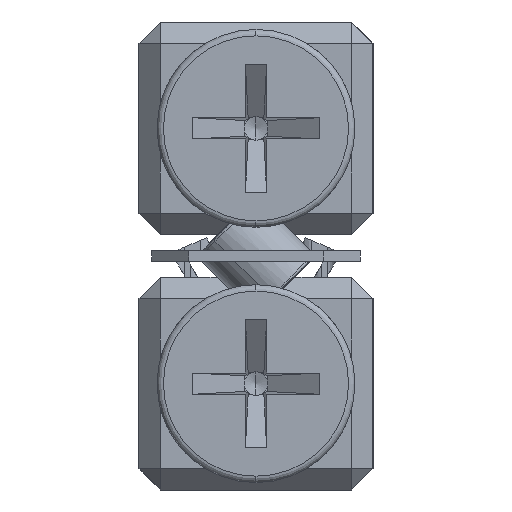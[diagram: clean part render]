
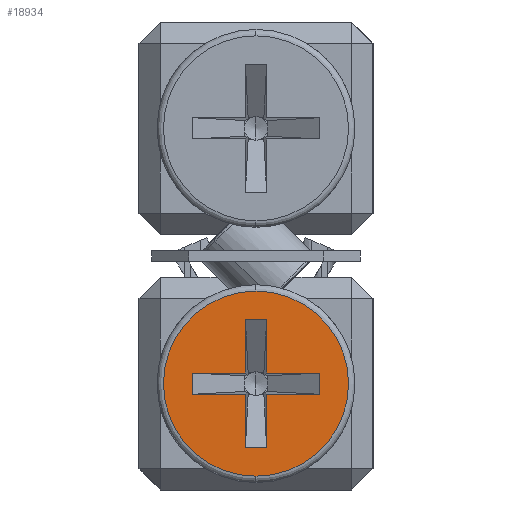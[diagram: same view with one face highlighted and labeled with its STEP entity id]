
A CAD part, left-side view. The second image highlights one B-rep face of the part: STEP entity #18934.
In plain terms, the highlighted planar face has unit normal (-1, 0, 0).
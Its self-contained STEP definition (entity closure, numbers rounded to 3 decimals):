
#95 = CARTESIAN_POINT ( 'NONE',  ( -182., -0.5, 4.5 ) ) ;
#106 = VECTOR ( 'NONE', #1386, 1000. ) ;
#141 = CARTESIAN_POINT ( 'NONE',  ( -182., 3., 5.5 ) ) ;
#221 = VERTEX_POINT ( 'NONE', #6918 ) ;
#1006 = LINE ( 'NONE', #17158, #28336 ) ;
#1386 = DIRECTION ( 'NONE',  ( 0., 0., -1. ) ) ;
#1637 = VECTOR ( 'NONE', #26195, 1000. ) ;
#1739 = VERTEX_POINT ( 'NONE', #38282 ) ;
#1789 = EDGE_CURVE ( 'NONE', #4117, #13831, #4728, .T. ) ;
#1898 = CARTESIAN_POINT ( 'NONE',  ( -182., 3., 4.5 ) ) ;
#2230 = VERTEX_POINT ( 'NONE', #7462 ) ;
#2838 = LINE ( 'NONE', #12879, #1637 ) ;
#3280 = CARTESIAN_POINT ( 'NONE',  ( -182., -3., 4.5 ) ) ;
#3417 = DIRECTION ( 'NONE',  ( 0., 0., -1. ) ) ;
#3710 = ORIENTED_EDGE ( 'NONE', *, *, #8930, .T. ) ;
#4117 = VERTEX_POINT ( 'NONE', #25958 ) ;
#4203 = CARTESIAN_POINT ( 'NONE',  ( -182., 0.5, 8. ) ) ;
#4493 = CARTESIAN_POINT ( 'NONE',  ( -182., 3., 5.5 ) ) ;
#4728 = CIRCLE ( 'NONE', #8206, 4.35 ) ;
#4764 = DIRECTION ( 'NONE',  ( 0., 1., 0. ) ) ;
#4875 = LINE ( 'NONE', #30428, #106 ) ;
#4899 = EDGE_CURVE ( 'NONE', #6562, #17197, #35127, .T. ) ;
#5341 = DIRECTION ( 'NONE',  ( 0., 0., -1. ) ) ;
#5734 = EDGE_LOOP ( 'NONE', ( #16327, #25639 ) ) ;
#6420 = VERTEX_POINT ( 'NONE', #1898 ) ;
#6562 = VERTEX_POINT ( 'NONE', #28955 ) ;
#6750 = DIRECTION ( 'NONE',  ( 0., 0., -1. ) ) ;
#6817 = CARTESIAN_POINT ( 'NONE',  ( -182., 0.5, 5.5 ) ) ;
#6918 = CARTESIAN_POINT ( 'NONE',  ( -182., -3., 4.5 ) ) ;
#7047 = VECTOR ( 'NONE', #41691, 1000. ) ;
#7236 = VECTOR ( 'NONE', #23717, 1000. ) ;
#7462 = CARTESIAN_POINT ( 'NONE',  ( -182., -0.5, 5.5 ) ) ;
#8206 = AXIS2_PLACEMENT_3D ( 'NONE', #41362, #34580, #5341 ) ;
#8930 = EDGE_CURVE ( 'NONE', #28200, #15371, #32029, .T. ) ;
#9148 = CARTESIAN_POINT ( 'NONE',  ( -182., 0.5, 2. ) ) ;
#9597 = VECTOR ( 'NONE', #4764, 1000. ) ;
#10241 = CARTESIAN_POINT ( 'NONE',  ( -182., -0.5, 8. ) ) ;
#10413 = FACE_OUTER_BOUND ( 'NONE', #5734, .T. ) ;
#10730 = EDGE_LOOP ( 'NONE', ( #42189, #34040, #15706, #39452, #12837, #27398, #33167, #11636, #12479, #15019, #41613, #3710 ) ) ;
#10927 = AXIS2_PLACEMENT_3D ( 'NONE', #12347, #31340, #21973 ) ;
#11636 = ORIENTED_EDGE ( 'NONE', *, *, #4899, .F. ) ;
#11922 = PLANE ( 'NONE',  #10927 ) ;
#12347 = CARTESIAN_POINT ( 'NONE',  ( -182., 4.65, 5. ) ) ;
#12479 = ORIENTED_EDGE ( 'NONE', *, *, #41265, .T. ) ;
#12837 = ORIENTED_EDGE ( 'NONE', *, *, #33009, .F. ) ;
#12879 = CARTESIAN_POINT ( 'NONE',  ( -182., -3., 4.5 ) ) ;
#13246 = EDGE_CURVE ( 'NONE', #15371, #20666, #37287, .T. ) ;
#13303 = DIRECTION ( 'NONE',  ( 0., 0., 1. ) ) ;
#13453 = LINE ( 'NONE', #4493, #7236 ) ;
#13567 = EDGE_CURVE ( 'NONE', #13831, #4117, #22424, .T. ) ;
#13659 = VERTEX_POINT ( 'NONE', #40083 ) ;
#13831 = VERTEX_POINT ( 'NONE', #38963 ) ;
#14161 = EDGE_CURVE ( 'NONE', #23943, #2230, #4875, .T. ) ;
#14803 = CARTESIAN_POINT ( 'NONE',  ( -182., 3., 5.5 ) ) ;
#15019 = ORIENTED_EDGE ( 'NONE', *, *, #19922, .T. ) ;
#15371 = VERTEX_POINT ( 'NONE', #6817 ) ;
#15706 = ORIENTED_EDGE ( 'NONE', *, *, #14161, .T. ) ;
#16327 = ORIENTED_EDGE ( 'NONE', *, *, #1789, .T. ) ;
#16371 = LINE ( 'NONE', #10241, #18640 ) ;
#16633 = CARTESIAN_POINT ( 'NONE',  ( -182., -3., 4.5 ) ) ;
#17158 = CARTESIAN_POINT ( 'NONE',  ( -182., 0.5, 2. ) ) ;
#17197 = VERTEX_POINT ( 'NONE', #19836 ) ;
#18079 = DIRECTION ( 'NONE',  ( 0., -1., 0. ) ) ;
#18634 = VERTEX_POINT ( 'NONE', #95 ) ;
#18640 = VECTOR ( 'NONE', #6750, 1000. ) ;
#18934 = ADVANCED_FACE ( 'NONE', ( #10413, #20451 ), #11922, .F. ) ;
#19603 = AXIS2_PLACEMENT_3D ( 'NONE', #36374, #26767, #3417 ) ;
#19836 = CARTESIAN_POINT ( 'NONE',  ( -182., -0.5, 2. ) ) ;
#19922 = EDGE_CURVE ( 'NONE', #1739, #6420, #37306, .T. ) ;
#20302 = LINE ( 'NONE', #33603, #24271 ) ;
#20451 = FACE_BOUND ( 'NONE', #10730, .T. ) ;
#20666 = VERTEX_POINT ( 'NONE', #4203 ) ;
#21046 = EDGE_CURVE ( 'NONE', #2230, #13659, #20302, .T. ) ;
#21305 = DIRECTION ( 'NONE',  ( 0., 0., 1. ) ) ;
#21622 = VECTOR ( 'NONE', #18079, 1000. ) ;
#21973 = DIRECTION ( 'NONE',  ( 0., 0., -1. ) ) ;
#22424 = CIRCLE ( 'NONE', #19603, 4.35 ) ;
#23717 = DIRECTION ( 'NONE',  ( 0., 0., -1. ) ) ;
#23943 = VERTEX_POINT ( 'NONE', #37343 ) ;
#24271 = VECTOR ( 'NONE', #30547, 1000. ) ;
#24855 = LINE ( 'NONE', #37726, #9597 ) ;
#25639 = ORIENTED_EDGE ( 'NONE', *, *, #13567, .T. ) ;
#25958 = CARTESIAN_POINT ( 'NONE',  ( -182., 0., 0.65 ) ) ;
#26195 = DIRECTION ( 'NONE',  ( 0., 1., 0. ) ) ;
#26767 = DIRECTION ( 'NONE',  ( -1., 0., 0. ) ) ;
#27398 = ORIENTED_EDGE ( 'NONE', *, *, #31253, .T. ) ;
#27485 = VECTOR ( 'NONE', #42423, 1000. ) ;
#28200 = VERTEX_POINT ( 'NONE', #141 ) ;
#28336 = VECTOR ( 'NONE', #21305, 1000. ) ;
#28955 = CARTESIAN_POINT ( 'NONE',  ( -182., 0.5, 2. ) ) ;
#30428 = CARTESIAN_POINT ( 'NONE',  ( -182., -0.5, 8. ) ) ;
#30547 = DIRECTION ( 'NONE',  ( 0., -1., 0. ) ) ;
#31253 = EDGE_CURVE ( 'NONE', #221, #18634, #2838, .T. ) ;
#31340 = DIRECTION ( 'NONE',  ( 1., 0., 0. ) ) ;
#31730 = EDGE_CURVE ( 'NONE', #28200, #6420, #13453, .T. ) ;
#32029 = LINE ( 'NONE', #14803, #21622 ) ;
#32456 = VECTOR ( 'NONE', #36664, 1000. ) ;
#33009 = EDGE_CURVE ( 'NONE', #221, #13659, #39771, .T. ) ;
#33167 = ORIENTED_EDGE ( 'NONE', *, *, #41788, .T. ) ;
#33603 = CARTESIAN_POINT ( 'NONE',  ( -182., 3., 5.5 ) ) ;
#34009 = CARTESIAN_POINT ( 'NONE',  ( -182., 0.5, 2. ) ) ;
#34040 = ORIENTED_EDGE ( 'NONE', *, *, #41938, .F. ) ;
#34580 = DIRECTION ( 'NONE',  ( -1., 0., 0. ) ) ;
#35127 = LINE ( 'NONE', #9148, #7047 ) ;
#36374 = CARTESIAN_POINT ( 'NONE',  ( -182., 0., 5. ) ) ;
#36664 = DIRECTION ( 'NONE',  ( 0., 1., 0. ) ) ;
#37002 = VECTOR ( 'NONE', #13303, 1000. ) ;
#37287 = LINE ( 'NONE', #34009, #37002 ) ;
#37306 = LINE ( 'NONE', #3280, #32456 ) ;
#37343 = CARTESIAN_POINT ( 'NONE',  ( -182., -0.5, 8. ) ) ;
#37726 = CARTESIAN_POINT ( 'NONE',  ( -182., -0.5, 8. ) ) ;
#38282 = CARTESIAN_POINT ( 'NONE',  ( -182., 0.5, 4.5 ) ) ;
#38963 = CARTESIAN_POINT ( 'NONE',  ( -182., 0., 9.35 ) ) ;
#39452 = ORIENTED_EDGE ( 'NONE', *, *, #21046, .T. ) ;
#39771 = LINE ( 'NONE', #16633, #27485 ) ;
#40083 = CARTESIAN_POINT ( 'NONE',  ( -182., -3., 5.5 ) ) ;
#41265 = EDGE_CURVE ( 'NONE', #6562, #1739, #1006, .T. ) ;
#41362 = CARTESIAN_POINT ( 'NONE',  ( -182., 0., 5. ) ) ;
#41613 = ORIENTED_EDGE ( 'NONE', *, *, #31730, .F. ) ;
#41691 = DIRECTION ( 'NONE',  ( 0., -1., 0. ) ) ;
#41788 = EDGE_CURVE ( 'NONE', #18634, #17197, #16371, .T. ) ;
#41938 = EDGE_CURVE ( 'NONE', #23943, #20666, #24855, .T. ) ;
#42189 = ORIENTED_EDGE ( 'NONE', *, *, #13246, .T. ) ;
#42423 = DIRECTION ( 'NONE',  ( 0., 0., 1. ) ) ;
